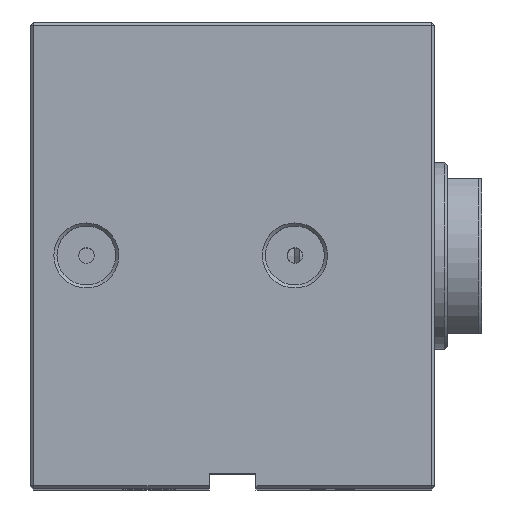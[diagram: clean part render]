
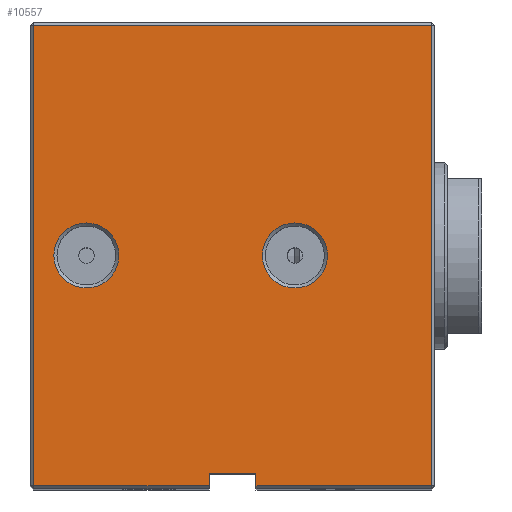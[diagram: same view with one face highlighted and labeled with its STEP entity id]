
A CAD part, top view. The second image highlights one B-rep face of the part: STEP entity #10557.
In plain terms, the highlighted planar face has unit normal (0, 0, 1).
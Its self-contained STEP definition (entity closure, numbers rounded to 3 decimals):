
#1148=FACE_BOUND('',#2529,.T.);
#1149=FACE_BOUND('',#2530,.T.);
#1321=PLANE('',#10880);
#1895=FACE_OUTER_BOUND('',#2528,.T.);
#2528=EDGE_LOOP('',(#9793,#9794,#9795,#9796,#9797,#9798,#9799,#9800));
#2529=EDGE_LOOP('',(#9801));
#2530=EDGE_LOOP('',(#9802));
#3337=LINE('',#21276,#4154);
#3338=LINE('',#21278,#4155);
#3339=LINE('',#21280,#4156);
#3340=LINE('',#21282,#4157);
#3341=LINE('',#21284,#4158);
#3342=LINE('',#21286,#4159);
#3343=LINE('',#21288,#4160);
#3344=LINE('',#21289,#4161);
#4154=VECTOR('',#12179,10.);
#4155=VECTOR('',#12180,10.);
#4156=VECTOR('',#12181,10.);
#4157=VECTOR('',#12182,10.);
#4158=VECTOR('',#12183,10.);
#4159=VECTOR('',#12184,10.);
#4160=VECTOR('',#12185,10.);
#4161=VECTOR('',#12186,10.);
#4255=CIRCLE('',#10878,10.451);
#4257=CIRCLE('',#10881,10.451);
#5260=VERTEX_POINT('',#21268);
#5262=VERTEX_POINT('',#21274);
#5263=VERTEX_POINT('',#21275);
#5264=VERTEX_POINT('',#21277);
#5265=VERTEX_POINT('',#21279);
#5266=VERTEX_POINT('',#21281);
#5267=VERTEX_POINT('',#21283);
#5268=VERTEX_POINT('',#21285);
#5269=VERTEX_POINT('',#21287);
#5270=VERTEX_POINT('',#21290);
#6781=EDGE_CURVE('',#5260,#5260,#4255,.T.);
#6784=EDGE_CURVE('',#5262,#5263,#3337,.T.);
#6785=EDGE_CURVE('',#5264,#5262,#3338,.T.);
#6786=EDGE_CURVE('',#5265,#5264,#3339,.T.);
#6787=EDGE_CURVE('',#5266,#5265,#3340,.T.);
#6788=EDGE_CURVE('',#5267,#5266,#3341,.T.);
#6789=EDGE_CURVE('',#5267,#5268,#3342,.T.);
#6790=EDGE_CURVE('',#5268,#5269,#3343,.T.);
#6791=EDGE_CURVE('',#5269,#5263,#3344,.T.);
#6792=EDGE_CURVE('',#5270,#5270,#4257,.T.);
#9793=ORIENTED_EDGE('',*,*,#6784,.F.);
#9794=ORIENTED_EDGE('',*,*,#6785,.F.);
#9795=ORIENTED_EDGE('',*,*,#6786,.F.);
#9796=ORIENTED_EDGE('',*,*,#6787,.F.);
#9797=ORIENTED_EDGE('',*,*,#6788,.F.);
#9798=ORIENTED_EDGE('',*,*,#6789,.T.);
#9799=ORIENTED_EDGE('',*,*,#6790,.T.);
#9800=ORIENTED_EDGE('',*,*,#6791,.T.);
#9801=ORIENTED_EDGE('',*,*,#6792,.F.);
#9802=ORIENTED_EDGE('',*,*,#6781,.F.);
#10557=ADVANCED_FACE('',(#1895,#1148,#1149),#1321,.T.);
#10878=AXIS2_PLACEMENT_3D('',#21269,#12172,#12173);
#10880=AXIS2_PLACEMENT_3D('',#21273,#12177,#12178);
#10881=AXIS2_PLACEMENT_3D('',#21291,#12187,#12188);
#12172=DIRECTION('center_axis',(0.,0.,1.));
#12173=DIRECTION('ref_axis',(-1.,0.,0.));
#12177=DIRECTION('center_axis',(0.,0.,1.));
#12178=DIRECTION('ref_axis',(0.,-1.,0.));
#12179=DIRECTION('',(-1.,0.,0.));
#12180=DIRECTION('',(0.,-1.,0.));
#12181=DIRECTION('',(1.,0.,0.));
#12182=DIRECTION('',(0.,1.,0.));
#12183=DIRECTION('',(-1.,0.,0.));
#12184=DIRECTION('',(0.,1.,0.));
#12185=DIRECTION('',(1.,0.,0.));
#12186=DIRECTION('',(0.,-1.,0.));
#12187=DIRECTION('center_axis',(0.,0.,1.));
#12188=DIRECTION('ref_axis',(-1.,0.,0.));
#21268=CARTESIAN_POINT('',(95.451,75.,200.));
#21269=CARTESIAN_POINT('Origin',(85.,75.,200.));
#21273=CARTESIAN_POINT('Origin',(0.,150.,200.));
#21274=CARTESIAN_POINT('',(129.,1.,200.));
#21275=CARTESIAN_POINT('',(72.5,1.,200.));
#21276=CARTESIAN_POINT('',(0.,1.,200.));
#21277=CARTESIAN_POINT('',(129.,149.,200.));
#21278=CARTESIAN_POINT('',(129.,112.5,200.));
#21279=CARTESIAN_POINT('',(1.,149.,200.));
#21280=CARTESIAN_POINT('',(0.,149.,200.));
#21281=CARTESIAN_POINT('',(1.,1.,200.));
#21282=CARTESIAN_POINT('',(1.,112.5,200.));
#21283=CARTESIAN_POINT('',(57.5,1.,200.));
#21284=CARTESIAN_POINT('',(0.,1.,200.));
#21285=CARTESIAN_POINT('',(57.5,5.,200.));
#21286=CARTESIAN_POINT('',(57.5,75.,200.));
#21287=CARTESIAN_POINT('',(72.5,5.,200.));
#21288=CARTESIAN_POINT('',(32.5,5.,200.));
#21289=CARTESIAN_POINT('',(72.5,75.,200.));
#21290=CARTESIAN_POINT('',(28.451,75.,200.));
#21291=CARTESIAN_POINT('Origin',(18.,75.,200.));
